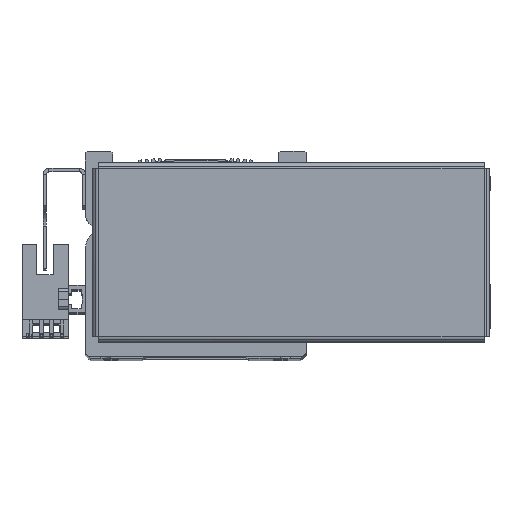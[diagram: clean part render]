
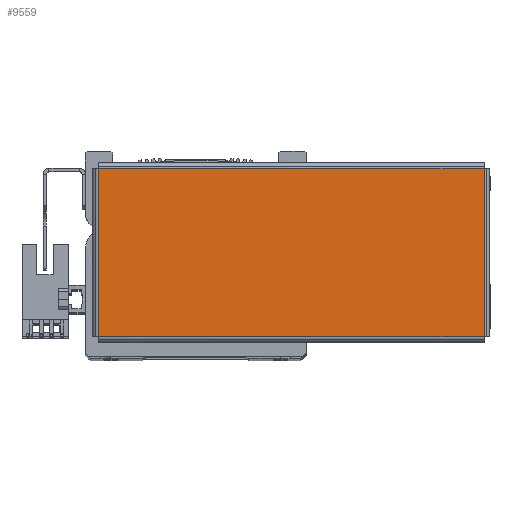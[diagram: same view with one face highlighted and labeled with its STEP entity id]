
A CAD part, top view. The second image highlights one B-rep face of the part: STEP entity #9559.
In plain terms, the highlighted planar face has unit normal (0, 0, 1) as drawn and (0, 0, -1) by its records, which use the part's own axes.
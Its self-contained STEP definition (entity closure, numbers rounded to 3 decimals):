
#6500 = LINE ( 'NONE', #7699, #6542 ) ;
#6507 = LINE ( 'NONE', #7780, #6521 ) ;
#6521 = VECTOR ( 'NONE', #7771, 1000. ) ;
#6536 = LINE ( 'NONE', #7790, #6539 ) ;
#6539 = VECTOR ( 'NONE', #7786, 1000. ) ;
#6542 = VECTOR ( 'NONE', #7674, 1000. ) ;
#6583 = VECTOR ( 'NONE', #7829, 1000. ) ;
#6601 = LINE ( 'NONE', #7800, #6583 ) ;
#7674 = DIRECTION ( 'NONE',  ( -1., 0., 0. ) ) ;
#7699 = CARTESIAN_POINT ( 'NONE',  ( 56.893, -24.763, -1. ) ) ;
#7771 = DIRECTION ( 'NONE',  ( 1., 0., 0. ) ) ;
#7780 = CARTESIAN_POINT ( 'NONE',  ( -56.893, 24.763, -1. ) ) ;
#7786 = DIRECTION ( 'NONE',  ( 0., -1., 0. ) ) ;
#7790 = CARTESIAN_POINT ( 'NONE',  ( 56.863, 24.793, -1. ) ) ;
#7800 = CARTESIAN_POINT ( 'NONE',  ( -56.863, -24.793, -1. ) ) ;
#7829 = DIRECTION ( 'NONE',  ( 0., 1., 0. ) ) ;
#9559 = ADVANCED_FACE ( 'NONE', ( #33067 ), #33033, .F. ) ;
#17722 = VERTEX_POINT ( 'NONE', #35997 ) ;
#17747 = VERTEX_POINT ( 'NONE', #35982 ) ;
#17757 = VERTEX_POINT ( 'NONE', #35994 ) ;
#18253 = EDGE_LOOP ( 'NONE', ( #26607, #26599, #26601, #26637 ) ) ;
#18912 = VERTEX_POINT ( 'NONE', #36075 ) ;
#20910 = EDGE_CURVE ( 'NONE', #18912, #17747, #6500, .T. ) ;
#20941 = EDGE_CURVE ( 'NONE', #17722, #17757, #6507, .T. ) ;
#20943 = EDGE_CURVE ( 'NONE', #17757, #18912, #6536, .T. ) ;
#20965 = EDGE_CURVE ( 'NONE', #17747, #17722, #6601, .T. ) ;
#24922 = AXIS2_PLACEMENT_3D ( 'NONE', #33028, #33026, #33060 ) ;
#26599 = ORIENTED_EDGE ( 'NONE', *, *, #20910, .T. ) ;
#26601 = ORIENTED_EDGE ( 'NONE', *, *, #20965, .T. ) ;
#26607 = ORIENTED_EDGE ( 'NONE', *, *, #20943, .T. ) ;
#26637 = ORIENTED_EDGE ( 'NONE', *, *, #20941, .T. ) ;
#33026 = DIRECTION ( 'NONE',  ( 0., 0., 1. ) ) ;
#33028 = CARTESIAN_POINT ( 'NONE',  ( 0., 0., -1. ) ) ;
#33033 = PLANE ( 'NONE',  #24922 ) ;
#33060 = DIRECTION ( 'NONE',  ( 1., 0., 0. ) ) ;
#33067 = FACE_OUTER_BOUND ( 'NONE', #18253, .T. ) ;
#35982 = CARTESIAN_POINT ( 'NONE',  ( -56.863, -24.763, -1. ) ) ;
#35994 = CARTESIAN_POINT ( 'NONE',  ( 56.863, 24.763, -1. ) ) ;
#35997 = CARTESIAN_POINT ( 'NONE',  ( -56.863, 24.763, -1. ) ) ;
#36075 = CARTESIAN_POINT ( 'NONE',  ( 56.863, -24.763, -1. ) ) ;
